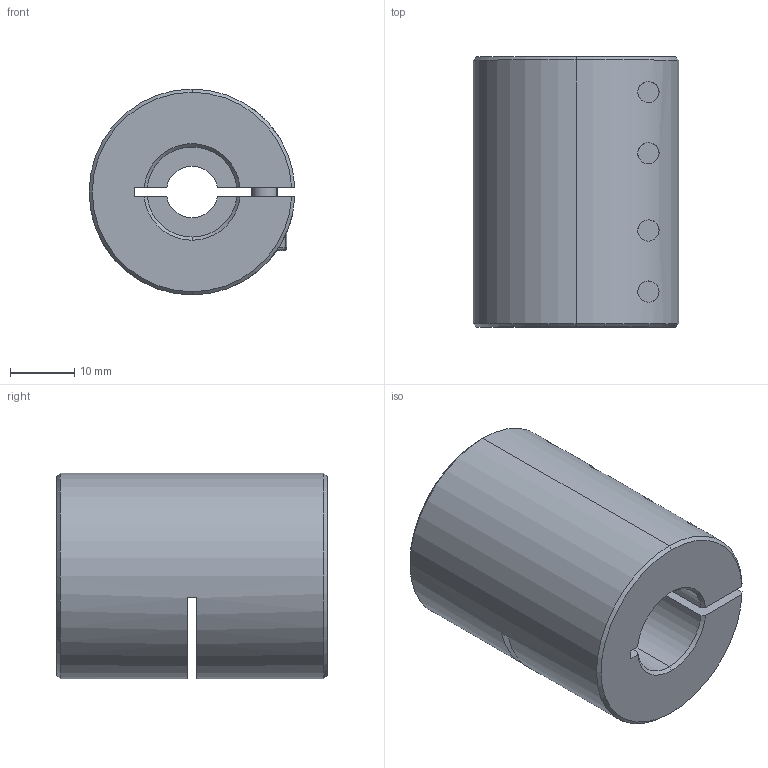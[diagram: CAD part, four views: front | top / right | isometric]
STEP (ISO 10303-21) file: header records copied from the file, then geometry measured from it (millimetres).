
FILE_DESCRIPTION (( 'STEP AP203' ), '1' );
FILE_NAME ('LL-B-D32L42-8-14.STEP', '2021-11-05T07:45:33', ( '' ), ( '' ), 'SwSTEP 2.0', 'SolidWorks 2018', '' );
FILE_SCHEMA (( 'CONFIG_CONTROL_DESIGN' ));
Length unit declared in the file: millimetre
Products named in the file (1): LL-B-D32L42-8-14
Bounding box: 31.98 x 42 x 32 mm (x, y, z)
Volume: 27084.4 mm3; surface area: 10336.9 mm2
Topology: 1 solids, 1 shells, 193 faces, 492 edges, 309 vertices
Faces by surface type: plane 88, cylinder 77, cone 20, torus 8
Entity records: 6376 total; most frequent: CARTESIAN_POINT 1559, DIRECTION 1037, ORIENTED_EDGE 968, EDGE_CURVE 484, AXIS2_PLACEMENT_3D 403, VERTEX_POINT 309, LINE 231, VECTOR 231
